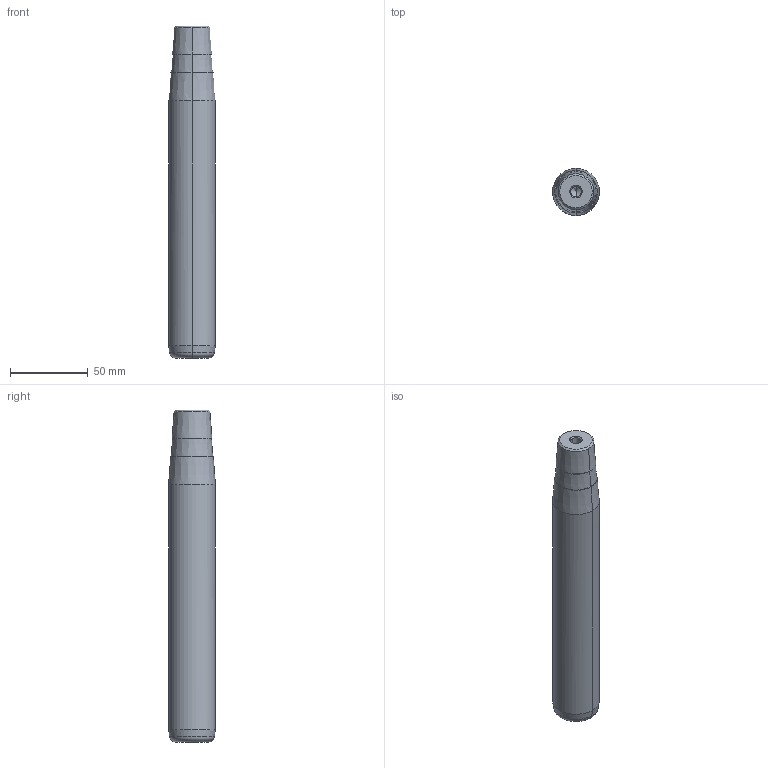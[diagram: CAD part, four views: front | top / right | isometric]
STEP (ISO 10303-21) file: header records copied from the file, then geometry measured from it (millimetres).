
FILE_DESCRIPTION(('CATIA V5 STEP Exchange'),'2;1');
FILE_NAME('C:\Users\Utente\Desktop\IO LAVORO\3D X SITO CF\X SITO\722\722-30x180x213.stp','2021-01-08T16:18:35+00:00',('none'),('none'),'CATIA Version 5 Release 20 GA (IN-10)','CATIA V5 STEP AP203','none');
FILE_SCHEMA(('CONFIG_CONTROL_DESIGN'));
Length unit declared in the file: millimetre
Products named in the file (1): 722-30x180x213
Bounding box: 30 x 30 x 213 mm (x, y, z)
Volume: 140262.1 mm3; surface area: 21490.3 mm2
Topology: 1 solids, 1 shells, 32 faces, 98 edges, 66 vertices
Faces by surface type: cone 22, cylinder 6, plane 2, torus 2
Entity records: 1166 total; most frequent: CARTESIAN_POINT 279, ORIENTED_EDGE 188, DIRECTION 148, EDGE_CURVE 94, AXIS2_PLACEMENT_3D 89, VERTEX_POINT 66, CIRCLE 56, EDGE_LOOP 34
